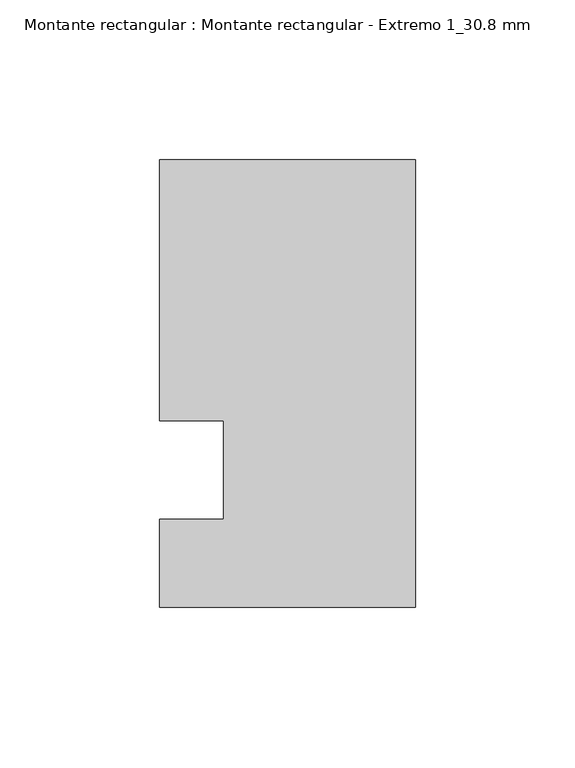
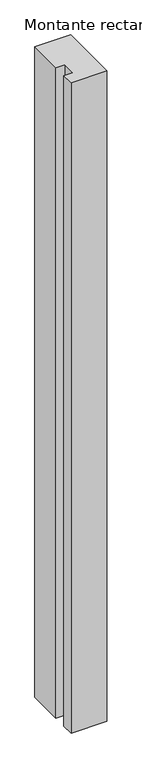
"""IFC4 building model written with IfcOpenShell, lengths in millimetres: member geometry, Montante rectangular : Montante rectangular - Extremo 1_30.8 mm."""

import ifcopenshell
import ifcopenshell.guid

model = None  # the IFC model being written
_history = None  # IfcOwnerHistory: only IFC2X3 demands one
_inside = {}  # id of a spatial element -> (the spatial element, [elements in it])
_under = {}  # id of a project, library or spatial element -> (it, [spatial elements below it])
_declared = {}  # id of a project -> (the project, [libraries it declares])
_typed = {}  # id of a type object -> (the type object, [elements of that type])
_made_of = {}  # id of a material, layer set ... -> (it, [elements and type objects made of it])


def new_model(schema):
    """Start an empty IFC model of exactly this schema.

    Asked for "IFC4X3", IfcOpenShell would pick the latest addendum, in which some entities
    have other attributes; the version numbers below select the first issue.
    IFC2X3 requires an IfcOwnerHistory on every rooted entity: one is made here for all.
    """
    global model, _history
    if schema == "IFC4X3":
        model = ifcopenshell.file(schema_version=(4, 3, 0, 0))
    else:
        model = ifcopenshell.file(schema=schema)
    _inside.clear()
    _under.clear()
    _declared.clear()
    _typed.clear()
    _made_of.clear()
    _history = None
    if model.schema == "IFC2X3":
        org = make("IfcOrganization", Name="unknown")
        user = make(
            "IfcPersonAndOrganization",
            ThePerson=make("IfcPerson", FamilyName="unknown"),
            TheOrganization=org,
        )
        app = make(
            "IfcApplication",
            ApplicationDeveloper=org,
            Version="unknown",
            ApplicationFullName="unknown",
            ApplicationIdentifier="unknown",
        )
        _history = make(
            "IfcOwnerHistory",
            OwningUser=user,
            OwningApplication=app,
            ChangeAction="ADDED",
            CreationDate=0,
        )
    return model


def make(cls, **values):
    """One entity of the class cls with the attributes given. An attribute that is None is left unset."""
    return model.create_entity(
        cls, **{name: value for name, value in values.items() if value is not None}
    )


def rooted(cls, **values):
    """An entity with a GlobalId (a new one), such as an element, a storey or a relation."""
    return make(cls, GlobalId=ifcopenshell.guid.new(), OwnerHistory=_history, **values)


def si_unit(unit_type, name, prefix=None):
    """IfcSIUnit, for example si_unit("LENGTHUNIT", "METRE", prefix="MILLI")."""
    return make("IfcSIUnit", UnitType=unit_type, Prefix=prefix, Name=name)


def assignment(units):
    """IfcUnitAssignment: the units of a project."""
    return None if units is None else make("IfcUnitAssignment", Units=units)


def point(xyz):
    """IfcCartesianPoint."""
    return None if xyz is None else make("IfcCartesianPoint", Coordinates=xyz)


def direction(xyz):
    """IfcDirection."""
    return None if xyz is None else make("IfcDirection", DirectionRatios=xyz)


def frame(location, z_axis=None, x_axis=None):
    """IfcAxis2Placement3D, a coordinate frame: its origin and axes. An axis left out is left unset."""
    return make(
        "IfcAxis2Placement3D",
        Location=point(location),
        Axis=direction(z_axis),
        RefDirection=direction(x_axis),
    )


def origin():
    """The frame at (0, 0, 0) with its axes left unset."""
    return frame((0.0, 0.0, 0.0))


def place(relative_to, where):
    """IfcLocalPlacement: puts the frame where relative to a parent placement (None: the world)."""
    return make(
        "IfcLocalPlacement", PlacementRelTo=relative_to, RelativePlacement=where
    )


def context(
    kind, dimensions, precision=None, world=None, true_north=None, identifier=None
):
    """IfcGeometricRepresentationContext, for example the 3D "Model" context."""
    return make(
        "IfcGeometricRepresentationContext",
        ContextIdentifier=identifier,
        ContextType=kind,
        CoordinateSpaceDimension=dimensions,
        Precision=precision,
        WorldCoordinateSystem=world,
        TrueNorth=true_north,
    )


def project(units=None, contexts=None):
    """IfcProject with its units and contexts."""
    return rooted(
        "IfcProject",
        Name="project",
        RepresentationContexts=contexts,
        UnitsInContext=assignment(units),
    )


def spatial(cls, under=None, at=None, **own):
    """A site, building, storey or space (cls), placed at a placement, below another one or the project."""
    s = rooted(cls, ObjectPlacement=at, **own)
    if under is not None:
        _under.setdefault(under.id(), (under, []))[1].append(s)
    return s


def polyline(points):
    """IfcPolyline through the points."""
    return make("IfcPolyline", Points=[point(p) for p in points])


def outline(outer, holes=None, kind="AREA"):
    """IfcArbitraryClosedProfileDef: a profile drawn as a closed curve; with holes, ...WithVoids."""
    if holes is None:
        return make("IfcArbitraryClosedProfileDef", ProfileType=kind, OuterCurve=outer)
    return make(
        "IfcArbitraryProfileDefWithVoids",
        ProfileType=kind,
        OuterCurve=outer,
        InnerCurves=holes,
    )


def extrude(swept, where, along, depth):
    """IfcExtrudedAreaSolid: the profile swept, set in the frame where, extruded along a direction by depth."""
    return make(
        "IfcExtrudedAreaSolid",
        SweptArea=swept,
        Position=where,
        ExtrudedDirection=direction(along),
        Depth=depth,
    )


def shape(context_of_items, identifier, shape_type, items):
    """IfcShapeRepresentation: the items that make up one representation, for example the "Body"."""
    return make(
        "IfcShapeRepresentation",
        ContextOfItems=context_of_items,
        RepresentationIdentifier=identifier,
        RepresentationType=shape_type,
        Items=items,
    )


def source(mapping_origin, context_of_items, identifier, shape_type, items):
    """IfcRepresentationMap: a shape defined once, which mapped items show again and again."""
    return make(
        "IfcRepresentationMap",
        MappingOrigin=mapping_origin,
        MappedRepresentation=shape(context_of_items, identifier, shape_type, items),
    )


def transform(
    local_origin,
    x_axis=None,
    y_axis=None,
    z_axis=None,
    scale=None,
    scale2=None,
    scale3=None,
    uniform=True,
):
    """IfcCartesianTransformationOperator3D, or its non-uniform kind. x_axis, y_axis, z_axis: its Axis1, 2, 3."""
    if uniform:
        return make(
            "IfcCartesianTransformationOperator3D",
            Axis1=direction(x_axis),
            Axis2=direction(y_axis),
            LocalOrigin=point(local_origin),
            Scale=scale,
            Axis3=direction(z_axis),
        )
    return make(
        "IfcCartesianTransformationOperator3DnonUniform",
        Axis1=direction(x_axis),
        Axis2=direction(y_axis),
        LocalOrigin=point(local_origin),
        Scale=scale,
        Axis3=direction(z_axis),
        Scale2=scale2,
        Scale3=scale3,
    )


def mapped(mapping_source, mapping_target):
    """IfcMappedItem: shows the shape of a source again, moved by a transform."""
    return make(
        "IfcMappedItem", MappingSource=mapping_source, MappingTarget=mapping_target
    )


def made_of(thing, what):
    """Note that an element or type object is made of a material, layer set ...; save() writes the relation."""
    if what is not None:
        _made_of.setdefault(what.id(), (what, []))[1].append(thing)
    return thing


def element(
    cls,
    number,
    at=None,
    inside=None,
    cuts=None,
    type_object=None,
    material=None,
    context=None,
    identifier="Body",
    shape_type=None,
    held_by="IfcProductDefinitionShape",
    body=None,
    shapes=None,
    **own,
):
    """One element of the class cls, such as IfcWall. Its Tag is "e" and its number.

    at: its placement. inside: the storey or other place that contains it. cuts: it is an
    opening in that element (IfcRelVoidsElement). A single representation is given by context,
    identifier, shape_type and body (its items); several are given by shapes. held_by: the class
    of the entity that holds the representations. save() writes the other relations.
    """
    e = rooted(cls, Tag="e%d" % number, ObjectPlacement=at, **own)
    if body is not None:
        shapes = [shape(context, identifier, shape_type, body)]
    if shapes is not None:
        e.Representation = make(held_by, Representations=shapes)
    if inside is not None:
        _inside.setdefault(inside.id(), (inside, []))[1].append(e)
    if cuts is not None:
        rooted(
            "IfcRelVoidsElement", RelatingBuildingElement=cuts, RelatedOpeningElement=e
        )
    if type_object is not None:
        _typed.setdefault(type_object.id(), (type_object, []))[1].append(e)
    return made_of(e, material)


def aggregate(whole, parts):
    """IfcRelAggregates: a whole, such as a stair, and the parts it consists of."""
    return rooted("IfcRelAggregates", RelatingObject=whole, RelatedObjects=parts)


def save(model, path):
    """Write the relations noted so far, then the file.

    IfcRelAggregates (storeys below a building ...), IfcRelContainedInSpatialStructure (elements
    in a storey), IfcRelDefinesByType, IfcRelAssociatesMaterial and IfcRelDeclares: one each for
    every whole, place, type object, material and project.
    """
    for whole, parts in _under.values():
        aggregate(whole, parts)
    for where, things in _inside.values():
        rooted(
            "IfcRelContainedInSpatialStructure",
            RelatedElements=things,
            RelatingStructure=where,
        )
    for kind, things in _typed.values():
        rooted("IfcRelDefinesByType", RelatedObjects=things, RelatingType=kind)
    for what, things in _made_of.values():
        rooted("IfcRelAssociatesMaterial", RelatedObjects=things, RelatingMaterial=what)
    for by, libraries in _declared.values():
        rooted("IfcRelDeclares", RelatingContext=by, RelatedDefinitions=libraries)
    model.write(path)


def montante_rectangular_montante_rectangular_extremo_1_30_8_mm_7b62097b(model_context):
    return source(origin(), model_context, "Body", "SweptSolid", [
        extrude(outline(polyline([(0.0, 80.0), (0.0, -60.0), (-80.0, -60.0), (-80.0, -32.4), (-60.0, -32.4), (-60.0, -1.6), (-80.0, -1.6), (-80.0, 80.0), (0.0, 80.0)])), frame((0.0, 0.0, -1540.0), z_axis=(0.0, 0.0, 1.0), x_axis=(1.0, 0.0, 0.0)), (0.0, 0.0, 1.0), 1540.0),
    ])


if __name__ == "__main__":
    model = new_model("IFC4")
    model_context = context("Model", 3, world=origin())
    ifc_project = project(units=[si_unit("LENGTHUNIT", "METRE", prefix="MILLI")], contexts=[model_context])
    site = spatial("IfcSite", under=ifc_project)
    building = spatial("IfcBuilding", under=site)
    placement = place(None, origin())
    montante_rectangular_montante_rectangular_extremo_1_30_8_mm_shape = montante_rectangular_montante_rectangular_extremo_1_30_8_mm_7b62097b(model_context)
    element("IfcMember", 1, ObjectType="Montante rectangular : Montante rectangular - Extremo 1_30.8 mm", at=placement, inside=building, context=model_context, shape_type="MappedRepresentation", body=[
        mapped(montante_rectangular_montante_rectangular_extremo_1_30_8_mm_shape, transform((0.0, 0.0, 0.0), x_axis=(1.0, 0.0, 0.0), y_axis=(0.0, 1.0, 0.0), z_axis=(0.0, 0.0, 1.0))),
    ])
    save(model, "model.ifc")
